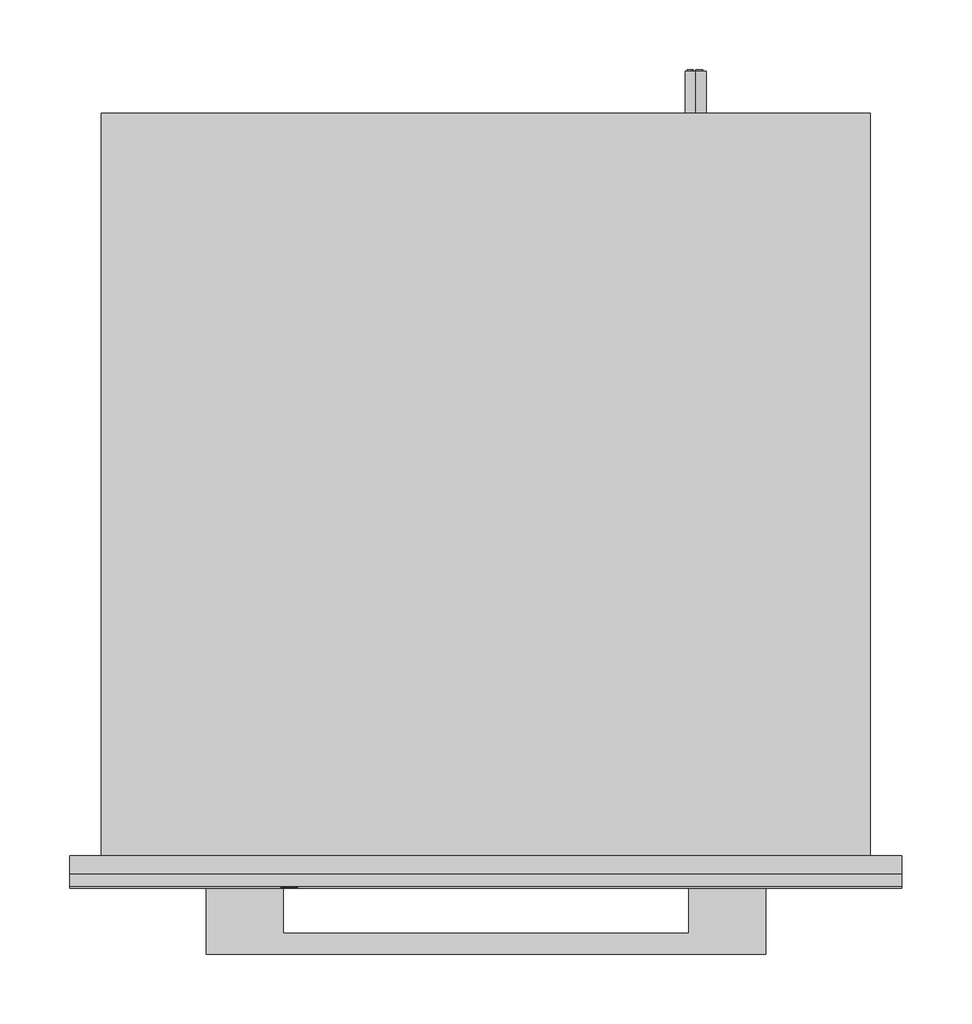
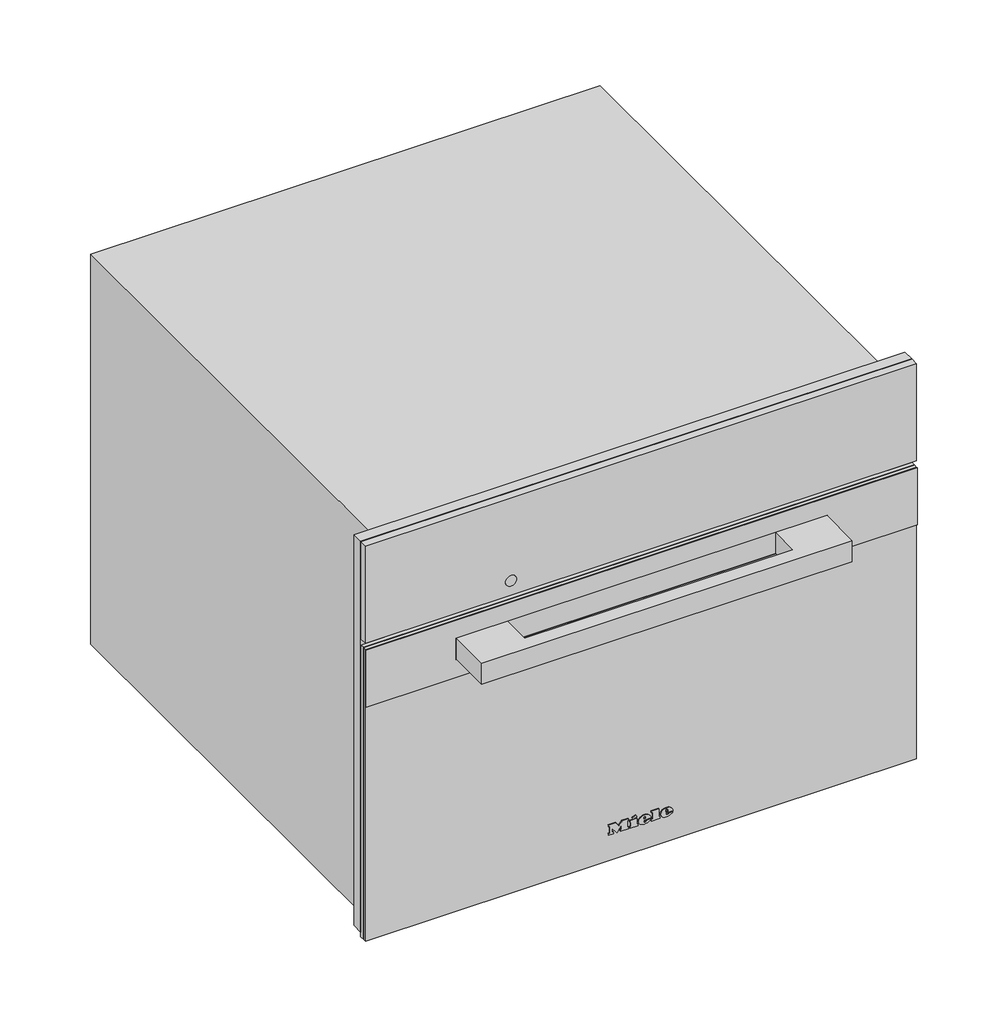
# Not in any storey: 1 proxy.
"""IFC4 building model written with IfcOpenShell, lengths in millimetres."""

import ifcopenshell
import ifcopenshell.guid

model = None  # the IFC model being written
_history = None  # IfcOwnerHistory: only IFC2X3 demands one
_inside = {}  # id of a spatial element -> (the spatial element, [elements in it])
_under = {}  # id of a project, library or spatial element -> (it, [spatial elements below it])
_declared = {}  # id of a project -> (the project, [libraries it declares])
_typed = {}  # id of a type object -> (the type object, [elements of that type])
_made_of = {}  # id of a material, layer set ... -> (it, [elements and type objects made of it])


def new_model(schema):
    """Start an empty IFC model of exactly this schema.

    Asked for "IFC4X3", IfcOpenShell would pick the latest addendum, in which some entities
    have other attributes; the version numbers below select the first issue.
    IFC2X3 requires an IfcOwnerHistory on every rooted entity: one is made here for all.
    """
    global model, _history
    if schema == "IFC4X3":
        model = ifcopenshell.file(schema_version=(4, 3, 0, 0))
    else:
        model = ifcopenshell.file(schema=schema)
    _inside.clear()
    _under.clear()
    _declared.clear()
    _typed.clear()
    _made_of.clear()
    _history = None
    if model.schema == "IFC2X3":
        org = make("IfcOrganization", Name="unknown")
        user = make(
            "IfcPersonAndOrganization",
            ThePerson=make("IfcPerson", FamilyName="unknown"),
            TheOrganization=org,
        )
        app = make(
            "IfcApplication",
            ApplicationDeveloper=org,
            Version="unknown",
            ApplicationFullName="unknown",
            ApplicationIdentifier="unknown",
        )
        _history = make(
            "IfcOwnerHistory",
            OwningUser=user,
            OwningApplication=app,
            ChangeAction="ADDED",
            CreationDate=0,
        )
    return model


def make(cls, **values):
    """One entity of the class cls with the attributes given. An attribute that is None is left unset."""
    return model.create_entity(
        cls, **{name: value for name, value in values.items() if value is not None}
    )


def rooted(cls, **values):
    """An entity with a GlobalId (a new one), such as an element, a storey or a relation."""
    return make(cls, GlobalId=ifcopenshell.guid.new(), OwnerHistory=_history, **values)


def si_unit(unit_type, name, prefix=None):
    """IfcSIUnit, for example si_unit("LENGTHUNIT", "METRE", prefix="MILLI")."""
    return make("IfcSIUnit", UnitType=unit_type, Prefix=prefix, Name=name)


def assignment(units):
    """IfcUnitAssignment: the units of a project."""
    return None if units is None else make("IfcUnitAssignment", Units=units)


def point(xyz):
    """IfcCartesianPoint."""
    return None if xyz is None else make("IfcCartesianPoint", Coordinates=xyz)


def direction(xyz):
    """IfcDirection."""
    return None if xyz is None else make("IfcDirection", DirectionRatios=xyz)


def frame(location, z_axis=None, x_axis=None):
    """IfcAxis2Placement3D, a coordinate frame: its origin and axes. An axis left out is left unset."""
    return make(
        "IfcAxis2Placement3D",
        Location=point(location),
        Axis=direction(z_axis),
        RefDirection=direction(x_axis),
    )


def frame_2d(location, x_axis=None):
    """IfcAxis2Placement2D, a coordinate frame in the plane: its origin and x axis."""
    return make(
        "IfcAxis2Placement2D", Location=point(location), RefDirection=direction(x_axis)
    )


def origin():
    """The frame at (0, 0, 0) with its axes left unset."""
    return frame((0.0, 0.0, 0.0))


def place(relative_to, where):
    """IfcLocalPlacement: puts the frame where relative to a parent placement (None: the world)."""
    return make(
        "IfcLocalPlacement", PlacementRelTo=relative_to, RelativePlacement=where
    )


def context(
    kind, dimensions, precision=None, world=None, true_north=None, identifier=None
):
    """IfcGeometricRepresentationContext, for example the 3D "Model" context."""
    return make(
        "IfcGeometricRepresentationContext",
        ContextIdentifier=identifier,
        ContextType=kind,
        CoordinateSpaceDimension=dimensions,
        Precision=precision,
        WorldCoordinateSystem=world,
        TrueNorth=true_north,
    )


def project(units=None, contexts=None):
    """IfcProject with its units and contexts."""
    return rooted(
        "IfcProject",
        Name="project",
        RepresentationContexts=contexts,
        UnitsInContext=assignment(units),
    )


def spatial(cls, under=None, at=None, **own):
    """A site, building, storey or space (cls), placed at a placement, below another one or the project."""
    s = rooted(cls, ObjectPlacement=at, **own)
    if under is not None:
        _under.setdefault(under.id(), (under, []))[1].append(s)
    return s


def polyline(points):
    """IfcPolyline through the points."""
    return make("IfcPolyline", Points=[point(p) for p in points])


def circle_curve(where, radius):
    """IfcCircle in the frame where."""
    return make("IfcCircle", Position=where, Radius=radius)


def ellipse_curve(where, semi_axis1, semi_axis2):
    """IfcEllipse in the frame where."""
    return make(
        "IfcEllipse", Position=where, SemiAxis1=semi_axis1, SemiAxis2=semi_axis2
    )


def trimmed(basis, trim1, trim2, sense, master):
    """IfcTrimmedCurve: the piece of a basis curve between two trims."""
    return make(
        "IfcTrimmedCurve",
        BasisCurve=basis,
        Trim1=trim1,
        Trim2=trim2,
        SenseAgreement=sense,
        MasterRepresentation=master,
    )


def segment(curve, same_sense, transition):
    """IfcCompositeCurveSegment."""
    return make(
        "IfcCompositeCurveSegment",
        Transition=transition,
        SameSense=same_sense,
        ParentCurve=curve,
    )


def composite_curve(segments, self_intersect=None):
    """IfcCompositeCurve: segments joined end to end."""
    return make("IfcCompositeCurve", Segments=segments, SelfIntersect=self_intersect)


def outline(outer, holes=None, kind="AREA"):
    """IfcArbitraryClosedProfileDef: a profile drawn as a closed curve; with holes, ...WithVoids."""
    if holes is None:
        return make("IfcArbitraryClosedProfileDef", ProfileType=kind, OuterCurve=outer)
    return make(
        "IfcArbitraryProfileDefWithVoids",
        ProfileType=kind,
        OuterCurve=outer,
        InnerCurves=holes,
    )


def extrude(swept, where, along, depth):
    """IfcExtrudedAreaSolid: the profile swept, set in the frame where, extruded along a direction by depth."""
    return make(
        "IfcExtrudedAreaSolid",
        SweptArea=swept,
        Position=where,
        ExtrudedDirection=direction(along),
        Depth=depth,
    )


def faces_of(points, faces, orient=None, outer=None):
    """IfcFace entities. A face is a list of loops; a loop is a list of indices into points, from 0.

    orient and outer hold one flag for each loop. By default every Orientation is true, the
    first loop of a face is its IfcFaceOuterBound and the others are IfcFaceBound.
    """
    made = []
    for i, loops in enumerate(faces):
        bounds = []
        for j, loop in enumerate(loops):
            is_outer = j == 0 if outer is None else outer[i][j]
            bounds.append(
                make(
                    "IfcFaceOuterBound" if is_outer else "IfcFaceBound",
                    Bound=make("IfcPolyLoop", Polygon=[points[k] for k in loop]),
                    Orientation=True if orient is None else orient[i][j],
                )
            )
        made.append(make("IfcFace", Bounds=bounds))
    return made


def faceted_brep(points, faces, orient=None, outer=None, voids=None):
    """IfcFacetedBrep: a solid bounded by flat faces; with voids (closed shells), ...WithVoids."""
    shared = [point(p) for p in points]
    hull = make("IfcClosedShell", CfsFaces=faces_of(shared, faces, orient, outer))
    if voids is None:
        return make("IfcFacetedBrep", Outer=hull)
    return make(
        "IfcFacetedBrepWithVoids",
        Outer=hull,
        Voids=[
            make(cls, CfsFaces=faces_of(shared, fs, o, b)) for cls, fs, o, b in voids
        ],
    )


def shape(context_of_items, identifier, shape_type, items):
    """IfcShapeRepresentation: the items that make up one representation, for example the "Body"."""
    return make(
        "IfcShapeRepresentation",
        ContextOfItems=context_of_items,
        RepresentationIdentifier=identifier,
        RepresentationType=shape_type,
        Items=items,
    )


def source(mapping_origin, context_of_items, identifier, shape_type, items):
    """IfcRepresentationMap: a shape defined once, which mapped items show again and again."""
    return make(
        "IfcRepresentationMap",
        MappingOrigin=mapping_origin,
        MappedRepresentation=shape(context_of_items, identifier, shape_type, items),
    )


def transform(
    local_origin,
    x_axis=None,
    y_axis=None,
    z_axis=None,
    scale=None,
    scale2=None,
    scale3=None,
    uniform=True,
):
    """IfcCartesianTransformationOperator3D, or its non-uniform kind. x_axis, y_axis, z_axis: its Axis1, 2, 3."""
    if uniform:
        return make(
            "IfcCartesianTransformationOperator3D",
            Axis1=direction(x_axis),
            Axis2=direction(y_axis),
            LocalOrigin=point(local_origin),
            Scale=scale,
            Axis3=direction(z_axis),
        )
    return make(
        "IfcCartesianTransformationOperator3DnonUniform",
        Axis1=direction(x_axis),
        Axis2=direction(y_axis),
        LocalOrigin=point(local_origin),
        Scale=scale,
        Axis3=direction(z_axis),
        Scale2=scale2,
        Scale3=scale3,
    )


def mapped(mapping_source, mapping_target):
    """IfcMappedItem: shows the shape of a source again, moved by a transform."""
    return make(
        "IfcMappedItem", MappingSource=mapping_source, MappingTarget=mapping_target
    )


def made_of(thing, what):
    """Note that an element or type object is made of a material, layer set ...; save() writes the relation."""
    if what is not None:
        _made_of.setdefault(what.id(), (what, []))[1].append(thing)
    return thing


def element(
    cls,
    number,
    at=None,
    inside=None,
    cuts=None,
    type_object=None,
    material=None,
    context=None,
    identifier="Body",
    shape_type=None,
    held_by="IfcProductDefinitionShape",
    body=None,
    shapes=None,
    **own,
):
    """One element of the class cls, such as IfcWall. Its Tag is "e" and its number.

    at: its placement. inside: the storey or other place that contains it. cuts: it is an
    opening in that element (IfcRelVoidsElement). A single representation is given by context,
    identifier, shape_type and body (its items); several are given by shapes. held_by: the class
    of the entity that holds the representations. save() writes the other relations.
    """
    e = rooted(cls, Tag="e%d" % number, ObjectPlacement=at, **own)
    if body is not None:
        shapes = [shape(context, identifier, shape_type, body)]
    if shapes is not None:
        e.Representation = make(held_by, Representations=shapes)
    if inside is not None:
        _inside.setdefault(inside.id(), (inside, []))[1].append(e)
    if cuts is not None:
        rooted(
            "IfcRelVoidsElement", RelatingBuildingElement=cuts, RelatedOpeningElement=e
        )
    if type_object is not None:
        _typed.setdefault(type_object.id(), (type_object, []))[1].append(e)
    return made_of(e, material)


def aggregate(whole, parts):
    """IfcRelAggregates: a whole, such as a stair, and the parts it consists of."""
    return rooted("IfcRelAggregates", RelatingObject=whole, RelatedObjects=parts)


def save(model, path):
    """Write the relations noted so far, then the file.

    IfcRelAggregates (storeys below a building ...), IfcRelContainedInSpatialStructure (elements
    in a storey), IfcRelDefinesByType, IfcRelAssociatesMaterial and IfcRelDeclares: one each for
    every whole, place, type object, material and project.
    """
    for whole, parts in _under.values():
        aggregate(whole, parts)
    for where, things in _inside.values():
        rooted(
            "IfcRelContainedInSpatialStructure",
            RelatedElements=things,
            RelatingStructure=where,
        )
    for kind, things in _typed.values():
        rooted("IfcRelDefinesByType", RelatedObjects=things, RelatingType=kind)
    for what, things in _made_of.values():
        rooted("IfcRelAssociatesMaterial", RelatedObjects=things, RelatingMaterial=what)
    for by, libraries in _declared.values():
        rooted("IfcRelDeclares", RelatingContext=by, RelatedDefinitions=libraries)
    model.write(path)


def plane_surface(at):
    """IfcPlane: the flat surface through the origin of the frame at, square to its z axis."""
    return make("IfcPlane", Position=at)


def cylinder_surface(at, radius):
    """IfcCylindricalSurface: all points at the distance radius from the z axis of the frame at."""
    return make("IfcCylindricalSurface", Position=at, Radius=radius)


def revolved_surface(curve, axis_point, axis_direction):
    """IfcSurfaceOfRevolution: the curve turned about the line through axis_point along axis_direction."""
    return make(
        "IfcSurfaceOfRevolution",
        SweptCurve=make("IfcArbitraryOpenProfileDef", ProfileType="CURVE", Curve=curve),
        AxisPosition=make("IfcAxis1Placement", Location=point(axis_point), Axis=direction(axis_direction)),
    )


def extruded_surface(curve, direction_of_extrusion, depth):
    """IfcSurfaceOfLinearExtrusion: the curve pushed along a direction by depth."""
    return make(
        "IfcSurfaceOfLinearExtrusion",
        SweptCurve=make("IfcArbitraryOpenProfileDef", ProfileType="CURVE", Curve=curve),
        ExtrudedDirection=direction(direction_of_extrusion),
        Depth=depth,
    )


def advanced_brep(points, edges, surfaces, faces):
    """IfcAdvancedBrep: a solid bounded by faces that lie on surfaces and meet in shared edges.

    An edge is (start, end): straight between two places in points (the first is 0);
    or (start, end, curve); or (start, end, curve, False) where it runs against its curve.
    A face is (place in surfaces, loops), or (place, loops, False) where it looks against
    its surface's normal. A loop lists edges by number (the first is 1), with a minus sign
    where the edge is run from its end to its start. The first loop is the outer one.
    """
    corners = [point(p) for p in points]
    vertices = [make("IfcVertexPoint", VertexGeometry=c) for c in corners]
    made = []
    for start, end, *more in edges:
        made.append(
            make(
                "IfcEdgeCurve",
                EdgeStart=vertices[start],
                EdgeEnd=vertices[end],
                EdgeGeometry=more[0] if more else make("IfcPolyline", Points=[corners[start], corners[end]]),
                SameSense=more[1] if len(more) > 1 else True,
            )
        )
    hull = []
    for where, loops, *sense in faces:
        bounds = []
        for j, loop in enumerate(loops):
            ring = [make("IfcOrientedEdge", EdgeElement=made[abs(k) - 1], Orientation=k > 0) for k in loop]
            bounds.append(
                make(
                    "IfcFaceOuterBound" if j == 0 else "IfcFaceBound",
                    Bound=make("IfcEdgeLoop", EdgeList=ring),
                    Orientation=True,
                )
            )
        hull.append(make("IfcAdvancedFace", Bounds=bounds, FaceSurface=surfaces[where], SameSense=sense[0] if sense else True))
    return make("IfcAdvancedBrep", Outer=make("IfcClosedShell", CfsFaces=hull))


def specialty_equipment_aa509b27(model_context):
    return source(origin(), model_context, "Body", "SolidModel", [
        extrude(outline(polyline([(455.0, 297.5), (455.0, -297.5), (9.0, -297.5), (9.0, -272.5), (344.0, -272.5), (344.0, 272.5), (9.0, 272.5), (9.0, 297.5), (455.0, 297.5)])), frame((0.0, -13.0, 0.0), z_axis=(0.0, 1.0, 0.0), x_axis=(0.0, 0.0, 1.0)), (0.0, 0.0, 1.0), 13.0),
        advanced_brep(
        [(150.0, 561.0, 410.5), (150.0, 561.0, 395.5), (144.4098301, 561.0, 398.0), (148.5, 561.0, 398.0), (148.5, 561.0, 408.0), (147.4955303, 561.0, 408.0), (147.4955303, 561.0, 399.0), (144.0315043, 561.0, 399.0), (144.0315043, 561.0, 398.4582978), (155.0, 561.0, 398.0), (155.0, 561.0, 408.0), (150.0, 561.0, 408.0), (150.0, 561.0, 407.0), (154.0, 561.0, 407.0), (154.0, 561.0, 403.5), (151.0, 561.0, 403.5), (151.0, 561.0, 402.5), (154.0, 561.0, 402.5), (154.0, 561.0, 399.0), (150.0, 561.0, 399.0), (150.0, 561.0, 398.0), (150.0, 531.0, 395.5), (150.0, 531.0, 410.5), (155.0, 562.0, 408.0), (155.0, 562.0, 398.0), (150.0, 562.0, 398.0), (150.0, 562.0, 399.0), (154.0, 562.0, 399.0), (154.0, 562.0, 402.5), (151.0, 562.0, 402.5), (151.0, 562.0, 403.5), (154.0, 562.0, 403.5), (154.0, 562.0, 407.0), (150.0, 562.0, 407.0), (150.0, 562.0, 408.0), (148.5, 562.0, 398.0), (144.0315043, 562.0, 398.0), (144.0315043, 562.0, 399.0), (147.4955303, 562.0, 399.0), (147.4955303, 562.0, 408.0), (148.5, 562.0, 408.0), (144.0315043, 561.0, 398.0)],
        [
            (0, 1, circle_curve(frame((150.0, 561.0, 403.0), z_axis=(0.0, 1.0, 0.0), x_axis=(0.0, 0.0, 1.0)), 7.5)),
            (1, 2, circle_curve(frame((150.0, 561.0, 403.0), z_axis=(0.0, 1.0, 0.0), x_axis=(0.0, 0.0, 1.0)), 7.5)),
            (2, 3),
            (3, 4),
            (4, 5),
            (5, 6),
            (6, 7),
            (7, 8),
            (8, 0, circle_curve(frame((150.0, 561.0, 403.0), z_axis=(0.0, 1.0, 0.0), x_axis=(0.0, 0.0, 1.0)), 7.5)),
            (9, 10),
            (10, 11),
            (11, 12),
            (12, 13),
            (13, 14),
            (14, 15),
            (15, 16),
            (16, 17),
            (17, 18),
            (18, 19),
            (19, 20),
            (20, 9),
            (21, 22, circle_curve(frame((150.0, 531.0, 403.0), z_axis=(0.0, -1.0, 0.0), x_axis=(0.0, 0.0, 1.0)), 7.5)),
            (22, 21, circle_curve(frame((150.0, 531.0, 403.0), z_axis=(0.0, -1.0, 0.0), x_axis=(0.0, 0.0, 1.0)), 7.5)),
            (0, 22),
            (21, 1),
            (8, 2, circle_curve(frame((150.0, 561.0, 403.0), z_axis=(0.0, -1.0, 0.0), x_axis=(0.0, 0.0, 1.0)), 7.5)),
            (23, 24),
            (24, 25),
            (25, 26),
            (26, 27),
            (27, 28),
            (28, 29),
            (29, 30),
            (30, 31),
            (31, 32),
            (32, 33),
            (33, 34),
            (34, 23),
            (35, 36),
            (36, 37),
            (37, 38),
            (38, 39),
            (39, 40),
            (40, 35),
            (8, 41),
            (41, 2),
            (23, 10),
            (9, 24),
            (20, 25),
            (19, 26),
            (18, 27),
            (17, 28),
            (16, 29),
            (15, 30),
            (14, 31),
            (13, 32),
            (12, 33),
            (11, 34),
            (35, 3),
            (41, 36),
            (7, 37),
            (6, 38),
            (5, 39),
            (4, 40),
        ],
        [
            plane_surface(frame((150.0, 561.0, 410.5), z_axis=(0.0, 1.0, 0.0), x_axis=(1.0, 0.0, 0.0))),
            plane_surface(frame((150.0, 531.0, 410.5), z_axis=(0.0, -1.0, 0.0), x_axis=(-1.0, 0.0, 0.0))),
            cylinder_surface(frame((150.0, 561.0, 403.0), z_axis=(0.0, -1.0, 0.0), x_axis=(0.0, 0.0, 1.0)), 7.5),
            plane_surface(frame((155.0, 562.0, 408.0), z_axis=(0.0, 1.0, 0.0), x_axis=(0.0, 0.0, -1.0))),
            plane_surface(frame((155.0, 561.0, 408.0), z_axis=(0.0, -1.0, 0.0), x_axis=(0.0, 0.0, 1.0))),
            plane_surface(frame((155.0, 562.0, 408.0), z_axis=(1.0, 0.0, 0.0), x_axis=(0.0, -1.0, 0.0))),
            plane_surface(frame((155.0, 562.0, 398.0), z_axis=(0.0, 0.0, -1.0), x_axis=(0.0, -1.0, 0.0))),
            plane_surface(frame((150.0, 562.0, 398.0), z_axis=(-1.0, 0.0, 0.0), x_axis=(0.0, -1.0, 0.0))),
            plane_surface(frame((150.0, 562.0, 399.0), z_axis=(0.0, 0.0, 1.0), x_axis=(0.0, -1.0, 0.0))),
            plane_surface(frame((154.0, 562.0, 399.0), z_axis=(-1.0, 0.0, 0.0), x_axis=(0.0, -1.0, 0.0))),
            plane_surface(frame((154.0, 562.0, 402.5), z_axis=(0.0, 0.0, -1.0), x_axis=(0.0, -1.0, 0.0))),
            plane_surface(frame((151.0, 562.0, 402.5), z_axis=(-1.0, 0.0, 0.0), x_axis=(0.0, -1.0, 0.0))),
            plane_surface(frame((151.0, 562.0, 403.5), z_axis=(0.0, 0.0, 1.0), x_axis=(0.0, -1.0, 0.0))),
            plane_surface(frame((154.0, 562.0, 403.5), z_axis=(-1.0, 0.0, 0.0), x_axis=(0.0, -1.0, 0.0))),
            plane_surface(frame((154.0, 562.0, 407.0), z_axis=(0.0, 0.0, -1.0), x_axis=(0.0, -1.0, 0.0))),
            plane_surface(frame((150.0, 562.0, 407.0), z_axis=(-1.0, 0.0, 0.0), x_axis=(0.0, -1.0, 0.0))),
            plane_surface(frame((150.0, 562.0, 408.0), z_axis=(0.0, 0.0, 1.0), x_axis=(0.0, -1.0, 0.0))),
            plane_surface(frame((148.5, 562.0, 398.0), z_axis=(0.0, 0.0, -1.0), x_axis=(0.0, -1.0, 0.0))),
            plane_surface(frame((144.0315043, 562.0, 398.0), z_axis=(-1.0, 0.0, 0.0), x_axis=(0.0, -1.0, 0.0))),
            plane_surface(frame((144.0315043, 562.0, 399.0), z_axis=(0.0, 0.0, 1.0), x_axis=(0.0, -1.0, 0.0))),
            plane_surface(frame((147.4955303, 562.0, 399.0), z_axis=(-1.0, 0.0, 0.0), x_axis=(0.0, -1.0, 0.0))),
            plane_surface(frame((147.4955303, 562.0, 408.0), z_axis=(0.0, 0.0, 1.0), x_axis=(0.0, -1.0, 0.0))),
            plane_surface(frame((148.5, 562.0, 408.0), z_axis=(1.0, 0.0, 0.0), x_axis=(0.0, -1.0, 0.0))),
        ],
        [
            (0, [[1, 2, 3, 4, 5, 6, 7, 8, 9], [10, 11, 12, 13, 14, 15, 16, 17, 18, 19, 20, 21]]),
            (1, [[22, 23]]),
            (2, [[-1, 24, -22, 25]]),
            (2, [[-23, -24, -9, 26, -2, -25]]),
            (3, [[27, 28, 29, 30, 31, 32, 33, 34, 35, 36, 37, 38]]),
            (3, [[39, 40, 41, 42, 43, 44]]),
            (4, [[45, 46, -26]]),
            (5, [[-27, 47, -10, 48]]),
            (6, [[-28, -48, -21, 49]]),
            (7, [[-29, -49, -20, 50]]),
            (8, [[-30, -50, -19, 51]]),
            (9, [[-31, -51, -18, 52]]),
            (10, [[-32, -52, -17, 53]]),
            (11, [[-33, -53, -16, 54]]),
            (12, [[-34, -54, -15, 55]]),
            (13, [[-35, -55, -14, 56]]),
            (14, [[-36, -56, -13, 57]]),
            (15, [[-37, -57, -12, 58]]),
            (16, [[-38, -58, -11, -47]]),
            (17, [[-39, 59, -3, -46, 60]]),
            (18, [[-40, -60, -45, -8, 61]]),
            (19, [[-41, -61, -7, 62]]),
            (20, [[-42, -62, -6, 63]]),
            (21, [[-43, -63, -5, 64]]),
            (22, [[-44, -64, -4, -59]]),
        ],
    ),
        faceted_brep([(275.0, 531.0, 445.0), (275.0, 531.0, 0.0), (-275.0, 531.0, 0.0), (-275.0, 531.0, 445.0), (275.0, 0.0, 445.0), (-275.0, 0.0, 445.0), (-275.0, 0.0, 0.0), (275.0, 0.0, 0.0), (-272.5, 0.0, 344.0), (272.5, 0.0, 344.0), (272.5, 0.0, 8.0), (-272.5, 0.0, 8.0), (272.5, 12.0, 344.0), (-272.5, 12.0, 344.0), (-272.5, 12.0, 8.0), (272.5, 12.0, 8.0), (161.0, 12.0, 286.0), (161.0, 12.0, 58.0), (-220.0, 12.0, 58.0), (-220.0, 12.0, 286.0), (161.0, 419.0, 286.0), (-220.0, 419.0, 286.0), (-220.0, 419.0, 58.0), (161.0, 419.0, 58.0)], [[[0, 1, 2, 3]], [[4, 5, 6, 7], [8, 9, 10, 11]], [[0, 3, 5, 4]], [[3, 2, 6, 5]], [[2, 1, 7, 6]], [[1, 0, 4, 7]], [[12, 13, 14, 15], [16, 17, 18, 19]], [[13, 12, 9, 8]], [[14, 13, 8, 11]], [[15, 14, 11, 10]], [[12, 15, 10, 9]], [[20, 21, 22, 23]], [[20, 23, 17, 16]], [[23, 22, 18, 17]], [[22, 21, 19, 18]], [[21, 20, 16, 19]]]),
        advanced_brep(
        [(26.2998, -23.0, 36.7018), (26.2998, -23.0, 37.8532), (33.9264, -23.0, 37.8532), (20.6568, -23.0, 37.8532), (23.7918, -23.0, 34.0), (33.7326, -23.0, 36.7018), (30.2898, -23.0, 36.7018), (27.5766, -23.0, 35.425), (26.2998, -23.0, 39.3124), (26.2998, -23.0, 40.555), (28.2492, -23.0, 40.555), (28.2492, -23.0, 39.3124), (26.2998, -22.0, 36.7018), (27.5766, -22.0, 35.425), (30.2898, -22.0, 36.7018), (33.7326, -22.0, 36.7018), (23.7918, -22.0, 34.0), (20.6568, -22.0, 37.8532), (33.9264, -22.0, 37.8532), (26.2998, -22.0, 37.8532), (26.2998, -22.0, 39.3124), (28.2492, -22.0, 39.3124), (28.2492, -22.0, 40.555), (26.2998, -22.0, 40.555)],
        [
            (0, 1),
            (1, 2),
            (2, 3, ellipse_curve(frame((27.2916, -23.0, 37.8532), z_axis=(0.0, -1.0, 0.0), x_axis=(-1.0, 0.0, 0.0)), 6.6348, 5.4834)),
            (3, 4, circle_curve(frame((25.0686622, -23.0, 38.2408), z_axis=(0.0, -1.0, 0.0), x_axis=(0.0, 0.0, -1.0)), 4.4288556)),
            (4, 5, circle_curve(frame((27.1587808, -23.0, 41.2504), z_axis=(0.0, -1.0, 0.0), x_axis=(0.0, 0.0, -1.0)), 7.9940516)),
            (5, 6),
            (6, 7, circle_curve(frame((28.1338588, -23.0, 37.762), z_axis=(0.0, 1.0, 0.0), x_axis=(0.0, 0.0, -1.0)), 2.4025208)),
            (7, 0, circle_curve(frame((27.5766, -23.0, 36.7018), z_axis=(0.0, 1.0, 0.0), x_axis=(0.0, 0.0, -1.0)), 1.2768)),
            (8, 9),
            (9, 10, circle_curve(frame((27.2745, -23.0, 40.555), z_axis=(0.0, 1.0, 0.0), x_axis=(0.0, 0.0, -1.0)), 0.9747)),
            (10, 11),
            (11, 8),
            (12, 13, circle_curve(frame((27.5766, -22.0, 36.7018), z_axis=(0.0, -1.0, 0.0), x_axis=(0.0, 0.0, -1.0)), 1.2768)),
            (13, 14, circle_curve(frame((28.1338588, -22.0, 37.762), z_axis=(0.0, -1.0, 0.0), x_axis=(0.0, 0.0, -1.0)), 2.4025208)),
            (14, 15),
            (15, 16, circle_curve(frame((27.1587808, -22.0, 41.2504), z_axis=(0.0, 1.0, 0.0), x_axis=(0.0, 0.0, -1.0)), 7.9940516)),
            (16, 17, circle_curve(frame((25.0686622, -22.0, 38.2408), z_axis=(0.0, 1.0, 0.0), x_axis=(0.0, 0.0, -1.0)), 4.4288556)),
            (17, 18, ellipse_curve(frame((27.2916, -22.0, 37.8532), z_axis=(0.0, 1.0, 0.0), x_axis=(-1.0, 0.0, 0.0)), 6.6348, 5.4834)),
            (18, 19),
            (19, 12),
            (20, 21),
            (21, 22),
            (22, 23, circle_curve(frame((27.2745, -22.0, 40.555), z_axis=(0.0, -1.0, 0.0), x_axis=(0.0, 0.0, -1.0)), 0.9747)),
            (23, 20),
            (0, 12),
            (19, 1),
            (18, 2),
            (5, 15),
            (14, 6),
            (17, 3),
            (13, 7),
            (16, 4),
            (8, 20),
            (23, 9),
            (22, 10),
            (21, 11),
        ],
        [
            plane_surface(frame((26.2998, -23.0, 37.8532), z_axis=(0.0, -1.0, 0.0), x_axis=(0.0, 0.0, 1.0))),
            plane_surface(frame((26.2998, -22.0, 37.8532), z_axis=(0.0, 1.0, 0.0), x_axis=(0.0, 0.0, -1.0))),
            plane_surface(frame((26.2998, -23.0, 36.7018), z_axis=(1.0, 0.0, 0.0), x_axis=(0.0, 1.0, 0.0))),
            plane_surface(frame((26.2998, -23.0, 37.8532), z_axis=(0.0, 0.0, -1.0), x_axis=(0.0, 1.0, 0.0))),
            plane_surface(frame((33.7326, -23.0, 36.7018), z_axis=(0.0, 0.0, 1.0), x_axis=(0.0, 1.0, 0.0))),
            extruded_surface(trimmed(ellipse_curve(frame((27.2916, -21.0, 37.8532), z_axis=(0.0, -1.0, 0.0), x_axis=(-1.0, 0.0, 0.0)), 6.6348, 5.4834), [point((33.9264, -21.0, 37.8532))], [point((20.6568, -21.0, 37.8532))], True, "CARTESIAN"), (0.0, -1.0, 0.0), 1.0),
            revolved_surface(polyline([(28.1338588, -22.0, 35.3594792), (28.1338588, -23.0, 35.3594792)]), (28.1338588, -22.0, 37.762), (0.0, 1.0, 0.0)),
            revolved_surface(polyline([(27.5766, -22.0, 35.425), (27.5766, -23.0, 35.425)]), (27.5766, -22.0, 36.7018), (0.0, 1.0, 0.0)),
            cylinder_surface(frame((25.0686622, -22.0, 38.2408), z_axis=(0.0, -1.0, 0.0), x_axis=(0.0, 0.0, -1.0)), 4.4288556),
            cylinder_surface(frame((27.1587808, -22.0, 41.2504), z_axis=(0.0, -1.0, 0.0), x_axis=(0.0, 0.0, -1.0)), 7.9940516),
            plane_surface(frame((26.2998, -23.0, 39.3124), z_axis=(1.0, 0.0, 0.0), x_axis=(0.0, 1.0, 0.0))),
            revolved_surface(polyline([(27.2745, -22.0, 39.5803), (27.2745, -23.0, 39.5803)]), (27.2745, -22.0, 40.555), (0.0, 1.0, 0.0)),
            plane_surface(frame((28.2492, -23.0, 40.555), z_axis=(-1.0, 0.0, 0.0), x_axis=(0.0, 1.0, 0.0))),
            plane_surface(frame((28.2492, -23.0, 39.3124), z_axis=(0.0, 0.0, 1.0), x_axis=(0.0, 1.0, 0.0))),
        ],
        [
            (0, [[1, 2, 3, 4, 5, 6, 7, 8], [9, 10, 11, 12]]),
            (1, [[13, 14, 15, 16, 17, 18, 19, 20], [21, 22, 23, 24]]),
            (2, [[-1, 25, -20, 26]]),
            (3, [[-2, -26, -19, 27]]),
            (4, [[-6, 28, -15, 29]]),
            (5, [[-3, -27, -18, 30]]),
            (6, [[-7, -29, -14, 31]]),
            (7, [[-8, -31, -13, -25]]),
            (8, [[-4, -30, -17, 32]]),
            (9, [[-5, -32, -16, -28]]),
            (10, [[-9, 33, -24, 34]]),
            (11, [[-10, -34, -23, 35]]),
            (12, [[-11, -35, -22, 36]]),
            (13, [[-12, -36, -21, -33]]),
        ],
    ),
        advanced_brep(
        [(2.508, -23.0, 36.7018), (2.508, -23.0, 37.8532), (10.1346, -23.0, 37.8532), (-3.135, -23.0, 37.8532), (0.0, -23.0, 34.0), (9.9408, -23.0, 36.7018), (6.498, -23.0, 36.7018), (3.7848, -23.0, 35.425), (2.508, -23.0, 39.3124), (2.508, -23.0, 40.555), (4.4574, -23.0, 40.555), (4.4574, -23.0, 39.3124), (2.508, -22.0, 36.7018), (3.7848, -22.0, 35.425), (6.498, -22.0, 36.7018), (9.9408, -22.0, 36.7018), (0.0, -22.0, 34.0), (-3.135, -22.0, 37.8532), (10.1346, -22.0, 37.8532), (2.508, -22.0, 37.8532), (2.508, -22.0, 39.3124), (4.4574, -22.0, 39.3124), (4.4574, -22.0, 40.555), (2.508, -22.0, 40.555)],
        [
            (0, 1),
            (1, 2),
            (2, 3, ellipse_curve(frame((3.4998, -23.0, 37.8532), z_axis=(0.0, -1.0, 0.0), x_axis=(-1.0, 0.0, 0.0)), 6.6348, 5.4834)),
            (3, 4, circle_curve(frame((1.2768622, -23.0, 38.2408), z_axis=(0.0, -1.0, 0.0), x_axis=(0.0, 0.0, -1.0)), 4.4288556)),
            (4, 5, circle_curve(frame((3.3669808, -23.0, 41.2504), z_axis=(0.0, -1.0, 0.0), x_axis=(0.0, 0.0, -1.0)), 7.9940516)),
            (5, 6),
            (6, 7, circle_curve(frame((4.3420588, -23.0, 37.762), z_axis=(0.0, 1.0, 0.0), x_axis=(0.0, 0.0, -1.0)), 2.4025208)),
            (7, 0, circle_curve(frame((3.7848, -23.0, 36.7018), z_axis=(0.0, 1.0, 0.0), x_axis=(0.0, 0.0, -1.0)), 1.2768)),
            (8, 9),
            (9, 10, circle_curve(frame((3.4827, -23.0, 40.555), z_axis=(0.0, 1.0, 0.0), x_axis=(0.0, 0.0, -1.0)), 0.9747)),
            (10, 11),
            (11, 8),
            (12, 13, circle_curve(frame((3.7848, -22.0, 36.7018), z_axis=(0.0, -1.0, 0.0), x_axis=(0.0, 0.0, -1.0)), 1.2768)),
            (13, 14, circle_curve(frame((4.3420588, -22.0, 37.762), z_axis=(0.0, -1.0, 0.0), x_axis=(0.0, 0.0, -1.0)), 2.4025208)),
            (14, 15),
            (15, 16, circle_curve(frame((3.3669808, -22.0, 41.2504), z_axis=(0.0, 1.0, 0.0), x_axis=(0.0, 0.0, -1.0)), 7.9940516)),
            (16, 17, circle_curve(frame((1.2768622, -22.0, 38.2408), z_axis=(0.0, 1.0, 0.0), x_axis=(0.0, 0.0, -1.0)), 4.4288556)),
            (17, 18, ellipse_curve(frame((3.4998, -22.0, 37.8532), z_axis=(0.0, 1.0, 0.0), x_axis=(-1.0, 0.0, 0.0)), 6.6348, 5.4834)),
            (18, 19),
            (19, 12),
            (20, 21),
            (21, 22),
            (22, 23, circle_curve(frame((3.4827, -22.0, 40.555), z_axis=(0.0, -1.0, 0.0), x_axis=(0.0, 0.0, -1.0)), 0.9747)),
            (23, 20),
            (0, 12),
            (19, 1),
            (18, 2),
            (5, 15),
            (14, 6),
            (17, 3),
            (13, 7),
            (16, 4),
            (8, 20),
            (23, 9),
            (22, 10),
            (21, 11),
        ],
        [
            plane_surface(frame((2.508, -23.0, 37.8532), z_axis=(0.0, -1.0, 0.0), x_axis=(0.0, 0.0, 1.0))),
            plane_surface(frame((2.508, -22.0, 37.8532), z_axis=(0.0, 1.0, 0.0), x_axis=(0.0, 0.0, -1.0))),
            plane_surface(frame((2.508, -23.0, 36.7018), z_axis=(1.0, 0.0, 0.0), x_axis=(0.0, 1.0, 0.0))),
            plane_surface(frame((2.508, -23.0, 37.8532), z_axis=(0.0, 0.0, -1.0), x_axis=(0.0, 1.0, 0.0))),
            plane_surface(frame((9.9408, -23.0, 36.7018), z_axis=(0.0, 0.0, 1.0), x_axis=(0.0, 1.0, 0.0))),
            extruded_surface(trimmed(ellipse_curve(frame((3.4998, -21.0, 37.8532), z_axis=(0.0, -1.0, 0.0), x_axis=(-1.0, 0.0, 0.0)), 6.6348, 5.4834), [point((10.1346, -21.0, 37.8532))], [point((-3.135, -21.0, 37.8532))], True, "CARTESIAN"), (0.0, -1.0, 0.0), 1.0),
            revolved_surface(polyline([(4.3420588, -22.0, 35.3594792), (4.3420588, -23.0, 35.3594792)]), (4.3420588, -22.0, 37.762), (0.0, 1.0, 0.0)),
            revolved_surface(polyline([(3.7848, -22.0, 35.425), (3.7848, -23.0, 35.425)]), (3.7848, -22.0, 36.7018), (0.0, 1.0, 0.0)),
            cylinder_surface(frame((1.2768622, -22.0, 38.2408), z_axis=(0.0, -1.0, 0.0), x_axis=(0.0, 0.0, -1.0)), 4.4288556),
            cylinder_surface(frame((3.3669808, -22.0, 41.2504), z_axis=(0.0, -1.0, 0.0), x_axis=(0.0, 0.0, -1.0)), 7.9940516),
            plane_surface(frame((2.508, -23.0, 39.3124), z_axis=(1.0, 0.0, 0.0), x_axis=(0.0, 1.0, 0.0))),
            revolved_surface(polyline([(3.4827, -22.0, 39.5803), (3.4827, -23.0, 39.5803)]), (3.4827, -22.0, 40.555), (0.0, 1.0, 0.0)),
            plane_surface(frame((4.4574, -23.0, 40.555), z_axis=(-1.0, 0.0, 0.0), x_axis=(0.0, 1.0, 0.0))),
            plane_surface(frame((4.4574, -23.0, 39.3124), z_axis=(0.0, 0.0, 1.0), x_axis=(0.0, 1.0, 0.0))),
        ],
        [
            (0, [[1, 2, 3, 4, 5, 6, 7, 8], [9, 10, 11, 12]]),
            (1, [[13, 14, 15, 16, 17, 18, 19, 20], [21, 22, 23, 24]]),
            (2, [[-1, 25, -20, 26]]),
            (3, [[-2, -26, -19, 27]]),
            (4, [[-6, 28, -15, 29]]),
            (5, [[-3, -27, -18, 30]]),
            (6, [[-7, -29, -14, 31]]),
            (7, [[-8, -31, -13, -25]]),
            (8, [[-4, -30, -17, 32]]),
            (9, [[-5, -32, -16, -28]]),
            (10, [[-9, 33, -24, 34]]),
            (11, [[-10, -34, -23, 35]]),
            (12, [[-11, -35, -22, 36]]),
            (13, [[-12, -36, -21, -33]]),
        ],
    ),
        extrude(outline(polyline([(44.7274, -9.9522), (42.8806, -9.0858), (44.6818, -5.2212), (46.5286, -6.0762), (44.7274, -9.9522)])), frame((0.0, -23.0, 0.0), z_axis=(0.0, 1.0, 0.0), x_axis=(0.0, 0.0, 1.0)), (0.0, 0.0, 1.0), 1.0),
        extrude(outline(polyline([(42.6298, -12.768), (40.5892, -12.768), (40.5892, -11.4114), (35.9152, -11.4114), (35.9152, -12.768), (34.0, -12.768), (34.0, -3.7734), (35.9152, -3.7734), (35.9152, -5.0958), (42.6298, -5.0958), (42.6298, -12.768)])), frame((0.0, -23.0, 0.0), z_axis=(0.0, 1.0, 0.0), x_axis=(0.0, 0.0, 1.0)), (0.0, 0.0, 1.0), 1.0),
        extrude(outline(polyline([(43.5418, 10.773), (43.5418, 12.141), (35.9152, 12.141), (35.9152, 10.773), (34.0, 10.773), (34.0, 20.0184), (35.9152, 20.0184), (35.9152, 18.6162), (45.4, 18.6162), (45.4, 10.773), (43.5418, 10.773)])), frame((0.0, -23.0, 0.0), z_axis=(0.0, 1.0, 0.0), x_axis=(0.0, 0.0, 1.0)), (0.0, 0.0, 1.0), 1.0),
        extrude(outline(polyline([(43.5418, -35.4882), (43.5418, -34.1088), (35.9152, -34.1088), (35.9152, -35.4882), (34.0, -35.4882), (34.0, -30.4722), (35.9152, -30.4722), (35.9152, -31.8402), (40.7429247, -31.8402), (34.0, -26.7444), (40.9402223, -21.6258), (35.9152, -21.6258), (35.9152, -23.028), (34.0, -23.028), (34.0, -13.9308), (35.9152, -13.9308), (35.9152, -15.3786), (43.5418, -15.3786), (43.5418, -13.9308), (45.4, -13.9308), (45.4, -20.8734), (41.125, -24.2022), (45.4, -27.5424), (45.4, -35.4882), (43.5418, -35.4882)])), frame((0.0, -23.0, 0.0), z_axis=(0.0, 1.0, 0.0), x_axis=(0.0, 0.0, 1.0)), (0.0, 0.0, 1.0), 1.0),
        extrude(outline(polyline([(297.5, -22.0), (-297.5, -22.0), (-297.5, -13.0), (297.5, -13.0), (297.5, -22.0)])), frame((0.0, 0.0, 344.0), z_axis=(0.0, 0.0, 1.0), x_axis=(1.0, 0.0, 0.0)), (0.0, 0.0, 1.0), 111.0),
        extrude(outline(composite_curve([segment(trimmed(circle_curve(frame_2d((361.0, -140.5745637)), 6.0), [point((361.0, -146.5745637))], [point((361.0, -134.5745637))], False, "CARTESIAN"), True, "CONTINUOUS"), segment(trimmed(circle_curve(frame_2d((361.0, -140.5745637)), 6.0), [point((361.0, -134.5745637))], [point((361.0, -146.5745637))], False, "CARTESIAN"), True, "CONTINUOUS")], self_intersect=False)), frame((0.0, -22.5, 0.0), z_axis=(0.0, 1.0, 0.0), x_axis=(0.0, 0.0, 1.0)), (0.0, 0.0, 1.0), 1.0),
        extrude(outline(polyline([(297.5, -18.0), (-297.5, -18.0), (-297.5, -13.0), (297.5, -13.0), (297.5, -18.0)])), frame((0.0, 0.0, 4.0), z_axis=(0.0, 0.0, 1.0), x_axis=(1.0, 0.0, 0.0)), (0.0, 0.0, 1.0), 333.0),
        extrude(outline(polyline([(-297.5, -18.0), (297.5, -18.0), (297.5, -22.0), (-297.5, -22.0), (-297.5, -18.0)])), frame((0.0, 0.0, 4.0), z_axis=(0.0, 0.0, 1.0), x_axis=(1.0, 0.0, 0.0)), (0.0, 0.0, 1.0), 333.0),
        extrude(outline(polyline([(-200.0, -70.3), (-200.0, -22.0), (-145.0, -22.0), (-145.0, -55.3), (145.0, -55.3), (145.0, -22.0), (200.0, -22.0), (200.0, -70.3), (-200.0, -70.3)])), frame((0.0, 0.0, 292.5), z_axis=(0.0, 0.0, 1.0), x_axis=(1.0, 0.0, 0.0)), (0.0, 0.0, 1.0), 24.0),
        extrude(outline(polyline([(337.0, 297.5), (337.0, -297.5), (272.0, -297.5), (272.0, 297.5), (337.0, 297.5)]), holes=[polyline([(317.0, -200.5), (317.0, 200.5), (292.0, 200.5), (292.0, -200.5), (317.0, -200.5)])]), frame((0.0, -23.3, 0.0), z_axis=(0.0, 1.0, 0.0), x_axis=(0.0, 0.0, 1.0)), (0.0, 0.0, 1.0), 1.3),
    ])


model = new_model("IFC4")

# Units and contexts
model_context = context("Model", 3, world=origin())
ifc_project = project(units=[si_unit("LENGTHUNIT", "METRE", prefix="MILLI")], contexts=[model_context])

# Site, building
site = spatial("IfcSite", under=ifc_project)
building = spatial("IfcBuilding", under=site)

# Proxy
placement = place(None, origin())
specialty_equipment_shape = specialty_equipment_aa509b27(model_context)
element("IfcBuildingElementProxy", 1, Name="11100940_F_DGM7840_EDST-CLST : 23784044_F_11100940_DGM7840_EDST-CLST", ObjectType="11100940_F_DGM7840_EDST-CLST : 23784044_F_11100940_DGM7840_EDST-CLST", at=placement, inside=building, context=model_context, shape_type="MappedRepresentation", body=[
    mapped(specialty_equipment_shape, transform((0.0, 0.0, 0.0), x_axis=(1.0, 0.0, 0.0), y_axis=(0.0, 1.0, 0.0), z_axis=(0.0, 0.0, 1.0))),
])

save(model, "model.ifc")
